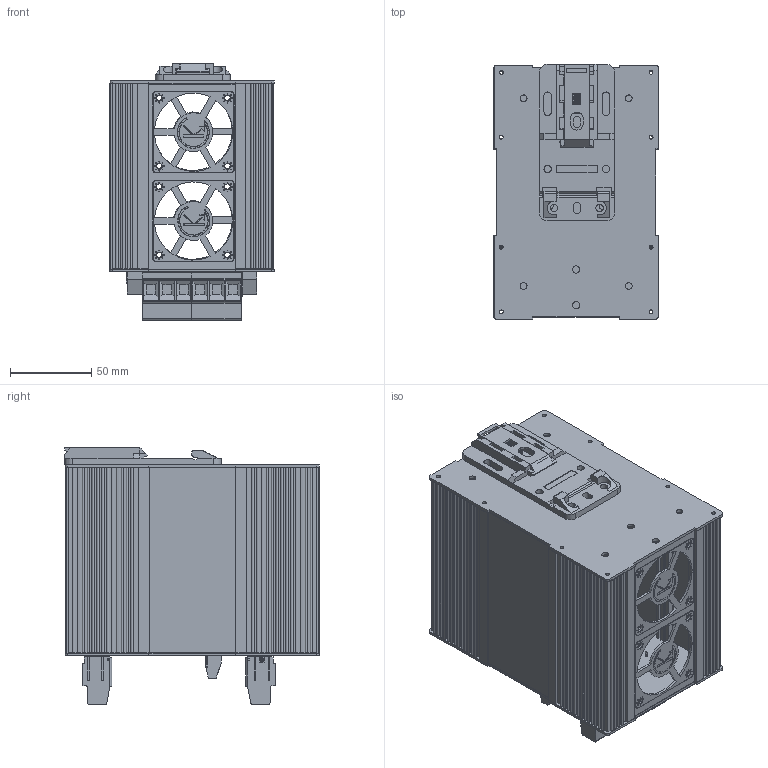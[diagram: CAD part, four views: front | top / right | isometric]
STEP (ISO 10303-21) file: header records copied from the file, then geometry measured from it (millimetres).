
FILE_DESCRIPTION(/* description */ (''),/* implementation_level */ '2;1');
FILE_NAME(/* name */ 'Z:\01-KEVOLTA\PRODUITS\01-PRODUITS ACTIF\KMR_series\PLAN\KMR_ACCR\KPS_ACCR_RD_114.stp',/* time_stamp */ '2026-10-19T15:10:38+02:00',/* author */ ('Julien'),/* organization */ (''),/* preprocessor_version */ 'ST-DEVELOPER v18.1',/* originating_system */ 'Autodesk Inventor 2021',/* authorisation */ '');
FILE_SCHEMA (('AUTOMOTIVE_DESIGN { 1 0 10303 214 3 1 1 }'));
Products named in the file (6): KPS_ACCR_RD_114; KBA-114-FAN; FACE_ARR; KPS_series_114_FAN; HS-X35; KMR_ACCR_2
Assembly tree (6 placements, depth 2):
  KPS_ACCR_RD_114
    KBA-114-FAN
    FACE_ARR
    KPS_series_114_FAN  x2
    HS-X35
    KMR_ACCR_2
Bounding box: 101.42 x 157.09 x 158.05 mm (x, y, z)
Volume: 248895.2 mm3; surface area: 259452.5 mm2
Topology: 14 solids, 334 shells, 2457 faces, 14370 edges, 12351 vertices
Faces by surface type: plane 1850, cylinder 578, cone 27, bspline 2
Full cylindrical faces by diameter (mm): 0.457 x3, 0.5 x192, 1.3 x6, 1.5 x36, 2.4 x8, 3.5 x8, 3.7 x16, 3.8 x6, 4 x6, 4.2 x4, 4.5 x10, 5 x9, 5.6 x9
Entity records: 138250 total; most frequent: CARTESIAN_POINT 31232, DIRECTION 20894, ORIENTED_EDGE 19317, EDGE_CURVE 13366, VERTEX_POINT 11447, LINE 10436, VECTOR 10436, AXIS2_PLACEMENT_3D 5229
